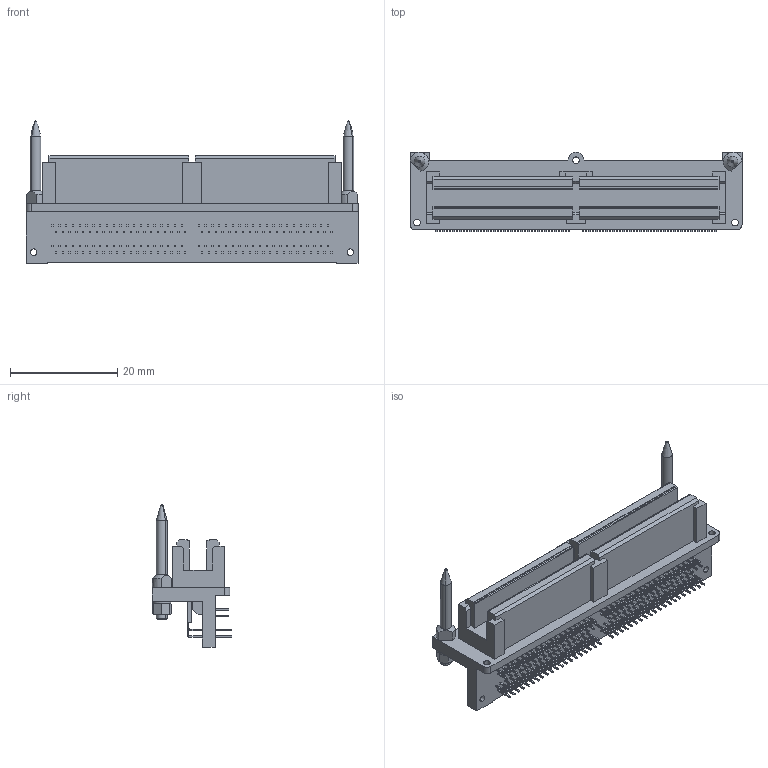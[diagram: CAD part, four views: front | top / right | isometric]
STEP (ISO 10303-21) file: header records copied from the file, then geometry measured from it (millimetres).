
FILE_DESCRIPTION (( 'STEP AP203' ), '1' );
FILE_NAME ('30047-160T-01FC MINIDOCK RIGHT ANGLE RECEPTACLE STEP R2 Hikvision.STEP', '2024-03-11T04:38:28', ( '' ), ( '' ), 'SwSTEP 2.0', 'SolidWorks 2023', '' );
FILE_SCHEMA (( 'CONFIG_CONTROL_DESIGN' ));
Length unit declared in the file: millimetre
Products named in the file (1): 30047-160T-01FC MINIDOCK RIGHT ANGLE RECEPTACLE STEP R2 Hikvision
Bounding box: 62 x 14.86 x 26.59 mm (x, y, z)
Volume: 6139.3 mm3; surface area: 6557.2 mm2
Topology: 1 solids, 1 shells, 1564 faces, 4399 edges, 2928 vertices
Faces by surface type: plane 1336, cylinder 188, cone 36, sphere 4
Entity records: 50266 total; most frequent: CARTESIAN_POINT 9076, ORIENTED_EDGE 8798, DIRECTION 7895, EDGE_CURVE 4399, LINE 3929, VECTOR 3929, VERTEX_POINT 2928, AXIS2_PLACEMENT_3D 1983
